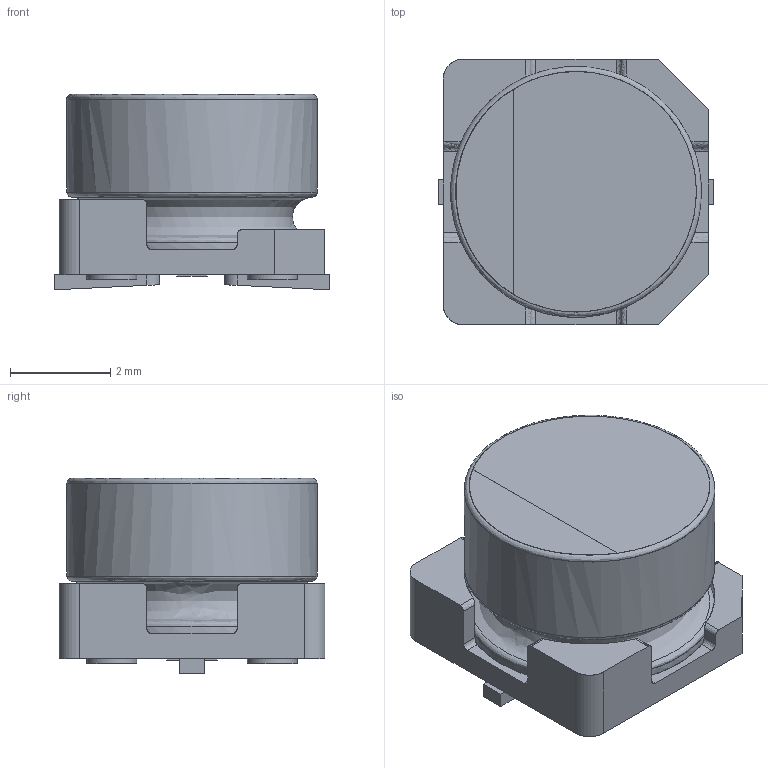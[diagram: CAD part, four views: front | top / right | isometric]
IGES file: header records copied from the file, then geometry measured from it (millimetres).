
Start section: JAMA-IS VERSION  1.0
Bounding box: 5.5 x 5.3 x 3.9 mm (x, y, z)
Surface area: 188.4 mm2 (no closed solid volume)
Topology: 0 solids, 0 shells, 81 faces, 944 edges, 926 vertices
Faces by surface type: bspline 81
